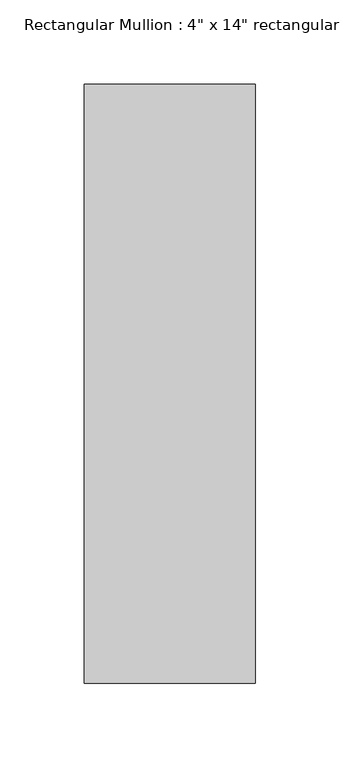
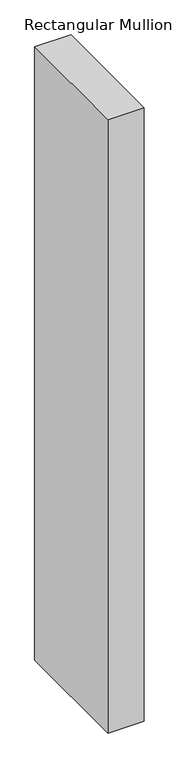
"""IFC4 building model written with IfcOpenShell, lengths in millimetres: member geometry."""

import ifcopenshell
import ifcopenshell.guid

model = None  # the IFC model being written
_history = None  # IfcOwnerHistory: only IFC2X3 demands one
_inside = {}  # id of a spatial element -> (the spatial element, [elements in it])
_under = {}  # id of a project, library or spatial element -> (it, [spatial elements below it])
_declared = {}  # id of a project -> (the project, [libraries it declares])
_typed = {}  # id of a type object -> (the type object, [elements of that type])
_made_of = {}  # id of a material, layer set ... -> (it, [elements and type objects made of it])


def new_model(schema):
    """Start an empty IFC model of exactly this schema.

    Asked for "IFC4X3", IfcOpenShell would pick the latest addendum, in which some entities
    have other attributes; the version numbers below select the first issue.
    IFC2X3 requires an IfcOwnerHistory on every rooted entity: one is made here for all.
    """
    global model, _history
    if schema == "IFC4X3":
        model = ifcopenshell.file(schema_version=(4, 3, 0, 0))
    else:
        model = ifcopenshell.file(schema=schema)
    _inside.clear()
    _under.clear()
    _declared.clear()
    _typed.clear()
    _made_of.clear()
    _history = None
    if model.schema == "IFC2X3":
        org = make("IfcOrganization", Name="unknown")
        user = make(
            "IfcPersonAndOrganization",
            ThePerson=make("IfcPerson", FamilyName="unknown"),
            TheOrganization=org,
        )
        app = make(
            "IfcApplication",
            ApplicationDeveloper=org,
            Version="unknown",
            ApplicationFullName="unknown",
            ApplicationIdentifier="unknown",
        )
        _history = make(
            "IfcOwnerHistory",
            OwningUser=user,
            OwningApplication=app,
            ChangeAction="ADDED",
            CreationDate=0,
        )
    return model


def make(cls, **values):
    """One entity of the class cls with the attributes given. An attribute that is None is left unset."""
    return model.create_entity(
        cls, **{name: value for name, value in values.items() if value is not None}
    )


def rooted(cls, **values):
    """An entity with a GlobalId (a new one), such as an element, a storey or a relation."""
    return make(cls, GlobalId=ifcopenshell.guid.new(), OwnerHistory=_history, **values)


def si_unit(unit_type, name, prefix=None):
    """IfcSIUnit, for example si_unit("LENGTHUNIT", "METRE", prefix="MILLI")."""
    return make("IfcSIUnit", UnitType=unit_type, Prefix=prefix, Name=name)


def assignment(units):
    """IfcUnitAssignment: the units of a project."""
    return None if units is None else make("IfcUnitAssignment", Units=units)


def point(xyz):
    """IfcCartesianPoint."""
    return None if xyz is None else make("IfcCartesianPoint", Coordinates=xyz)


def direction(xyz):
    """IfcDirection."""
    return None if xyz is None else make("IfcDirection", DirectionRatios=xyz)


def frame(location, z_axis=None, x_axis=None):
    """IfcAxis2Placement3D, a coordinate frame: its origin and axes. An axis left out is left unset."""
    return make(
        "IfcAxis2Placement3D",
        Location=point(location),
        Axis=direction(z_axis),
        RefDirection=direction(x_axis),
    )


def origin():
    """The frame at (0, 0, 0) with its axes left unset."""
    return frame((0.0, 0.0, 0.0))


def place(relative_to, where):
    """IfcLocalPlacement: puts the frame where relative to a parent placement (None: the world)."""
    return make(
        "IfcLocalPlacement", PlacementRelTo=relative_to, RelativePlacement=where
    )


def context(
    kind, dimensions, precision=None, world=None, true_north=None, identifier=None
):
    """IfcGeometricRepresentationContext, for example the 3D "Model" context."""
    return make(
        "IfcGeometricRepresentationContext",
        ContextIdentifier=identifier,
        ContextType=kind,
        CoordinateSpaceDimension=dimensions,
        Precision=precision,
        WorldCoordinateSystem=world,
        TrueNorth=true_north,
    )


def project(units=None, contexts=None):
    """IfcProject with its units and contexts."""
    return rooted(
        "IfcProject",
        Name="project",
        RepresentationContexts=contexts,
        UnitsInContext=assignment(units),
    )


def spatial(cls, under=None, at=None, **own):
    """A site, building, storey or space (cls), placed at a placement, below another one or the project."""
    s = rooted(cls, ObjectPlacement=at, **own)
    if under is not None:
        _under.setdefault(under.id(), (under, []))[1].append(s)
    return s


def polyline(points):
    """IfcPolyline through the points."""
    return make("IfcPolyline", Points=[point(p) for p in points])


def outline(outer, holes=None, kind="AREA"):
    """IfcArbitraryClosedProfileDef: a profile drawn as a closed curve; with holes, ...WithVoids."""
    if holes is None:
        return make("IfcArbitraryClosedProfileDef", ProfileType=kind, OuterCurve=outer)
    return make(
        "IfcArbitraryProfileDefWithVoids",
        ProfileType=kind,
        OuterCurve=outer,
        InnerCurves=holes,
    )


def extrude(swept, where, along, depth):
    """IfcExtrudedAreaSolid: the profile swept, set in the frame where, extruded along a direction by depth."""
    return make(
        "IfcExtrudedAreaSolid",
        SweptArea=swept,
        Position=where,
        ExtrudedDirection=direction(along),
        Depth=depth,
    )


def shape(context_of_items, identifier, shape_type, items):
    """IfcShapeRepresentation: the items that make up one representation, for example the "Body"."""
    return make(
        "IfcShapeRepresentation",
        ContextOfItems=context_of_items,
        RepresentationIdentifier=identifier,
        RepresentationType=shape_type,
        Items=items,
    )


def source(mapping_origin, context_of_items, identifier, shape_type, items):
    """IfcRepresentationMap: a shape defined once, which mapped items show again and again."""
    return make(
        "IfcRepresentationMap",
        MappingOrigin=mapping_origin,
        MappedRepresentation=shape(context_of_items, identifier, shape_type, items),
    )


def transform(
    local_origin,
    x_axis=None,
    y_axis=None,
    z_axis=None,
    scale=None,
    scale2=None,
    scale3=None,
    uniform=True,
):
    """IfcCartesianTransformationOperator3D, or its non-uniform kind. x_axis, y_axis, z_axis: its Axis1, 2, 3."""
    if uniform:
        return make(
            "IfcCartesianTransformationOperator3D",
            Axis1=direction(x_axis),
            Axis2=direction(y_axis),
            LocalOrigin=point(local_origin),
            Scale=scale,
            Axis3=direction(z_axis),
        )
    return make(
        "IfcCartesianTransformationOperator3DnonUniform",
        Axis1=direction(x_axis),
        Axis2=direction(y_axis),
        LocalOrigin=point(local_origin),
        Scale=scale,
        Axis3=direction(z_axis),
        Scale2=scale2,
        Scale3=scale3,
    )


def mapped(mapping_source, mapping_target):
    """IfcMappedItem: shows the shape of a source again, moved by a transform."""
    return make(
        "IfcMappedItem", MappingSource=mapping_source, MappingTarget=mapping_target
    )


def made_of(thing, what):
    """Note that an element or type object is made of a material, layer set ...; save() writes the relation."""
    if what is not None:
        _made_of.setdefault(what.id(), (what, []))[1].append(thing)
    return thing


def element(
    cls,
    number,
    at=None,
    inside=None,
    cuts=None,
    type_object=None,
    material=None,
    context=None,
    identifier="Body",
    shape_type=None,
    held_by="IfcProductDefinitionShape",
    body=None,
    shapes=None,
    **own,
):
    """One element of the class cls, such as IfcWall. Its Tag is "e" and its number.

    at: its placement. inside: the storey or other place that contains it. cuts: it is an
    opening in that element (IfcRelVoidsElement). A single representation is given by context,
    identifier, shape_type and body (its items); several are given by shapes. held_by: the class
    of the entity that holds the representations. save() writes the other relations.
    """
    e = rooted(cls, Tag="e%d" % number, ObjectPlacement=at, **own)
    if body is not None:
        shapes = [shape(context, identifier, shape_type, body)]
    if shapes is not None:
        e.Representation = make(held_by, Representations=shapes)
    if inside is not None:
        _inside.setdefault(inside.id(), (inside, []))[1].append(e)
    if cuts is not None:
        rooted(
            "IfcRelVoidsElement", RelatingBuildingElement=cuts, RelatedOpeningElement=e
        )
    if type_object is not None:
        _typed.setdefault(type_object.id(), (type_object, []))[1].append(e)
    return made_of(e, material)


def aggregate(whole, parts):
    """IfcRelAggregates: a whole, such as a stair, and the parts it consists of."""
    return rooted("IfcRelAggregates", RelatingObject=whole, RelatedObjects=parts)


def save(model, path):
    """Write the relations noted so far, then the file.

    IfcRelAggregates (storeys below a building ...), IfcRelContainedInSpatialStructure (elements
    in a storey), IfcRelDefinesByType, IfcRelAssociatesMaterial and IfcRelDeclares: one each for
    every whole, place, type object, material and project.
    """
    for whole, parts in _under.values():
        aggregate(whole, parts)
    for where, things in _inside.values():
        rooted(
            "IfcRelContainedInSpatialStructure",
            RelatedElements=things,
            RelatingStructure=where,
        )
    for kind, things in _typed.values():
        rooted("IfcRelDefinesByType", RelatedObjects=things, RelatingType=kind)
    for what, things in _made_of.values():
        rooted("IfcRelAssociatesMaterial", RelatedObjects=things, RelatingMaterial=what)
    for by, libraries in _declared.values():
        rooted("IfcRelDeclares", RelatingContext=by, RelatedDefinitions=libraries)
    model.write(path)


def member_98fec398(model_context):
    return source(origin(), model_context, "Body", "SweptSolid", [
        extrude(outline(polyline([(50.8, 342.9), (50.8, -12.7), (-50.8, -12.7), (-50.8, 342.9), (50.8, 342.9)])), frame((0.0, 0.0, -1820.7123522), z_axis=(0.0, 0.0, 1.0), x_axis=(1.0, 0.0, 0.0)), (0.0, 0.0, 1.0), 1820.7123522),
    ])


if __name__ == "__main__":
    model = new_model("IFC4")
    model_context = context("Model", 3, world=origin())
    ifc_project = project(units=[si_unit("LENGTHUNIT", "METRE", prefix="MILLI")], contexts=[model_context])
    site = spatial("IfcSite", under=ifc_project)
    building = spatial("IfcBuilding", under=site)
    placement = place(None, origin())
    member_shape = member_98fec398(model_context)
    element("IfcMember", 1, ObjectType="Rectangular Mullion : 4\" x 14\" rectangular", at=placement, inside=building, context=model_context, shape_type="MappedRepresentation", body=[
        mapped(member_shape, transform((0.0, 0.0, 0.0), x_axis=(1.0, 0.0, 0.0), y_axis=(0.0, 1.0, 0.0), z_axis=(0.0, 0.0, 1.0))),
    ])
    save(model, "model.ifc")
